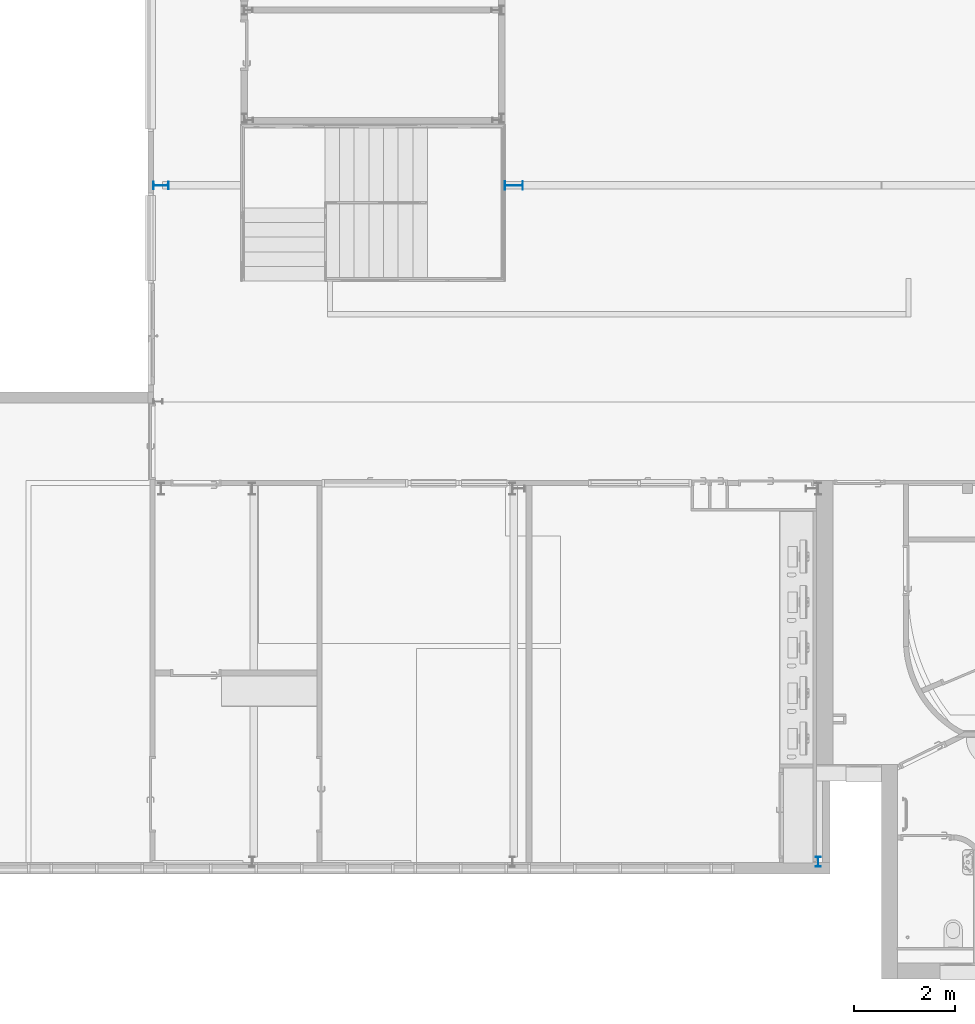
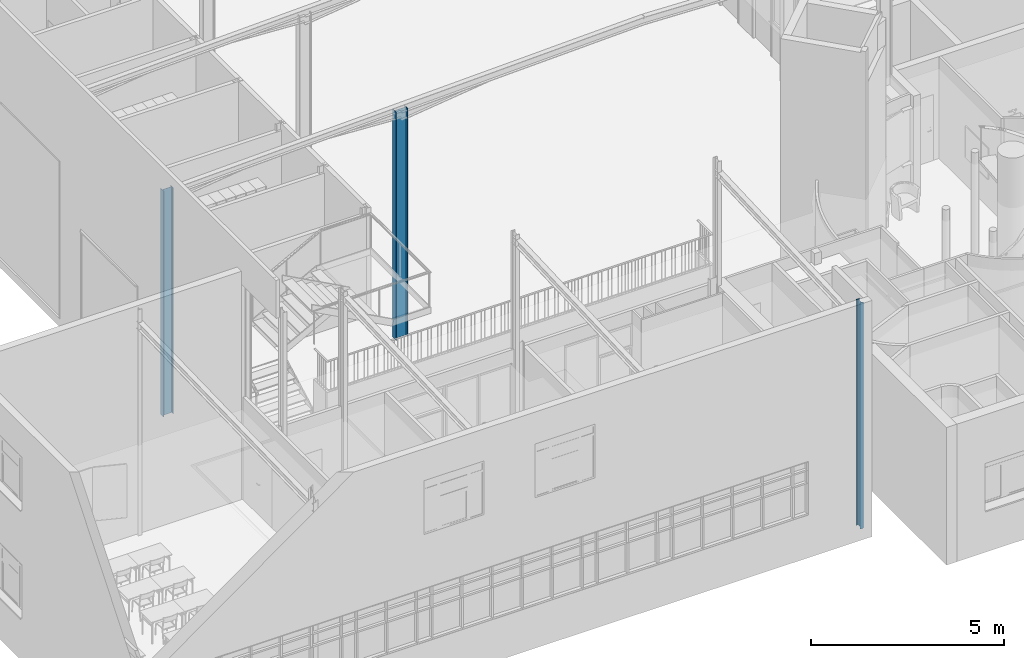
# One storey, part 2 of 137: 4 columns.
"""IFC2X3 building model written with IfcOpenShell, lengths in centimetres."""

from ifc_helpers import new_model, entity, si_unit, converted_unit, derived_unit, direction, frame, frame_2d, origin, place, context, subcontext, project, spatial, polyline, circle_curve, parameter, trimmed, segment, composite_curve, outline, extrude, source, transform, mapped, material, type_object, type_shapes, element, save


model = new_model("IFC2X3")

# Units and contexts
model_context = context("Model", 3, precision=0.001, world=origin(), true_north=direction((6.12303176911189e-17, 1.0)))
body_context = subcontext(model_context, "Body", "Model", "MODEL_VIEW")
ifc_project = project(units=[si_unit("LENGTHUNIT", "METRE", prefix="CENTI"), si_unit("AREAUNIT", "SQUARE_METRE"), si_unit("VOLUMEUNIT", "CUBIC_METRE"), converted_unit("PLANEANGLEUNIT", "DEGREE", entity("IfcRatioMeasure", 0.0174532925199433), si_unit("PLANEANGLEUNIT", "RADIAN"), dimensions=[0, 0, 0, 0, 0, 0, 0]), si_unit("MASSUNIT", "GRAM", prefix="KILO"), si_unit("TIMEUNIT", "SECOND"), si_unit("FREQUENCYUNIT", "HERTZ"), si_unit("THERMODYNAMICTEMPERATUREUNIT", "DEGREE_CELSIUS"), derived_unit("THERMALTRANSMITTANCEUNIT", [(si_unit("MASSUNIT", "GRAM", prefix="KILO"), 1), (si_unit("THERMODYNAMICTEMPERATUREUNIT", "KELVIN"), -1), (si_unit("TIMEUNIT", "SECOND"), -3)]), derived_unit("VOLUMETRICFLOWRATEUNIT", [(si_unit("LENGTHUNIT", "METRE"), 3), (si_unit("TIMEUNIT", "SECOND"), -1)]), si_unit("ELECTRICCURRENTUNIT", "AMPERE"), si_unit("ELECTRICVOLTAGEUNIT", "VOLT"), si_unit("POWERUNIT", "WATT"), si_unit("FORCEUNIT", "NEWTON", prefix="KILO"), si_unit("ILLUMINANCEUNIT", "LUX"), si_unit("LUMINOUSFLUXUNIT", "LUMEN"), si_unit("LUMINOUSINTENSITYUNIT", "CANDELA"), derived_unit("USERDEFINED", [(si_unit("MASSUNIT", "GRAM", prefix="KILO"), -1), (si_unit("LENGTHUNIT", "METRE"), -2), (si_unit("TIMEUNIT", "SECOND"), 3), (si_unit("LUMINOUSFLUXUNIT", "LUMEN"), 1)]), derived_unit("LINEARVELOCITYUNIT", [(si_unit("LENGTHUNIT", "METRE"), 1), (si_unit("TIMEUNIT", "SECOND"), -1)]), si_unit("PRESSUREUNIT", "PASCAL"), derived_unit("USERDEFINED", [(si_unit("LENGTHUNIT", "METRE"), -2), (si_unit("MASSUNIT", "GRAM", prefix="KILO"), 1), (si_unit("TIMEUNIT", "SECOND"), -2)])], contexts=[model_context])

# Site, building, storey
site_placement = place(None, frame((8.62739174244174, -249.285249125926, 0.0)))
site = spatial("IfcSite", under=ifc_project, at=site_placement, Name="Default", CompositionType="ELEMENT")
building_placement = place(site_placement, origin())
building = spatial("IfcBuilding", under=site, at=building_placement, CompositionType="ELEMENT")
storey_placement = place(building_placement, origin())
storey = spatial("IfcBuildingStorey", under=building, at=storey_placement, Name="RDC", CompositionType="ELEMENT", Elevation=-8.82465566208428e-11)

# Columns
ifc_material = material(Name="Acier, 45-345")
column_type_1 = type_object("IfcColumnType", Name="IPE200", PredefinedType="COLUMN", material=ifc_material)
shared_shape_1 = source(origin(), body_context, "Body", "SweptSolid", [
    extrude(outline(composite_curve([segment(polyline([(9.1, -5.0), (10.0, -5.0)]), True, "CONTINUOUS"), segment(polyline([(10.0, -5.0), (10.0, 5.0)]), True, "CONTINUOUS"), segment(polyline([(10.0, 5.0), (9.1, 5.0)]), True, "CONTINUOUS"), segment(polyline([(9.1, 5.0), (9.1, 1.8)]), True, "CONTINUOUS"), segment(trimmed(circle_curve(frame_2d((7.6, 1.8), x_axis=(1.0, 0.0)), 1.5), [parameter(270.0)], [parameter(0.0)], True, "PARAMETER"), False, "CONTINUOUS"), segment(polyline([(7.60000000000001, 0.3), (-7.6, 0.3)]), True, "CONTINUOUS"), segment(trimmed(circle_curve(frame_2d((-7.6, 1.8), x_axis=(0.0, -1.0)), 1.5), [parameter(270.0)], [parameter(0.0)], True, "PARAMETER"), False, "CONTINUOUS"), segment(polyline([(-9.1, 1.8), (-9.1, 5.0)]), True, "CONTINUOUS"), segment(polyline([(-9.1, 5.0), (-10.0, 5.0)]), True, "CONTINUOUS"), segment(polyline([(-10.0, 5.0), (-10.0, -5.0)]), True, "CONTINUOUS"), segment(polyline([(-10.0, -5.0), (-9.1, -5.0)]), True, "CONTINUOUS"), segment(polyline([(-9.1, -5.0), (-9.1, -1.8)]), True, "CONTINUOUS"), segment(trimmed(circle_curve(frame_2d((-7.6, -1.8), x_axis=(-1.0, 0.0)), 1.5), [parameter(270.0)], [parameter(0.0)], True, "PARAMETER"), False, "CONTINUOUS"), segment(polyline([(-7.6, -0.3), (7.6, -0.3)]), True, "CONTINUOUS"), segment(trimmed(circle_curve(frame_2d((7.6, -1.8), x_axis=(0.0, 1.0)), 1.5), [parameter(270.0)], [parameter(0.0)], True, "PARAMETER"), False, "CONTINUOUS"), segment(polyline([(9.1, -1.8), (9.1, -5.0)]), True, "CONTINUOUS")], self_intersect=False)), frame((0.0, 0.0, 0.0), z_axis=(0.0, 0.0, 1.0), x_axis=(0.0, -1.0, 0.0)), (0.0, 0.0, 1.0), 715.0),
])
type_shapes(column_type_1, [shared_shape_1])
column_1_placement = place(storey_placement, frame((2165.90000000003, 23.9802080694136, 0.0)))
element("IfcColumn", 1, at=column_1_placement, inside=storey, type_object=column_type_1, material=ifc_material, Name="IPE-200-100:IPE200", ObjectType="IPE200", context=body_context, shape_type="MappedRepresentation", body=[
    mapped(shared_shape_1, transform((0.0, 0.0, 0.0), scale=1.0)),
])
column_type_2 = type_object("IfcColumnType", Name="IPE360", PredefinedType="COLUMN", material=ifc_material)
shared_shape_2 = source(origin(), body_context, "Body", "SweptSolid", [
    extrude(outline(composite_curve([segment(polyline([(17.1, -8.5), (18.0, -8.5)]), True, "CONTINUOUS"), segment(polyline([(18.0, -8.5), (18.0, 8.5)]), True, "CONTINUOUS"), segment(polyline([(18.0, 8.5), (17.1, 8.5)]), True, "CONTINUOUS"), segment(polyline([(17.1, 8.5), (17.1, 1.79999999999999)]), True, "CONTINUOUS"), segment(trimmed(circle_curve(frame_2d((15.6, 1.80000000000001), x_axis=(1.0, 0.0)), 1.50000000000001), [parameter(270.000000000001)], [parameter(0.0)], True, "PARAMETER"), False, "CONTINUOUS"), segment(polyline([(15.6, 0.3), (-15.6, 0.3)]), True, "CONTINUOUS"), segment(trimmed(circle_curve(frame_2d((-15.6, 1.8), x_axis=(0.0, -1.0)), 1.5), [parameter(270.0)], [parameter(0.0)], True, "PARAMETER"), False, "CONTINUOUS"), segment(polyline([(-17.1, 1.8), (-17.1, 8.5)]), True, "CONTINUOUS"), segment(polyline([(-17.1, 8.5), (-18.0, 8.5)]), True, "CONTINUOUS"), segment(polyline([(-18.0, 8.5), (-18.0, -8.5)]), True, "CONTINUOUS"), segment(polyline([(-18.0, -8.5), (-17.1, -8.5)]), True, "CONTINUOUS"), segment(polyline([(-17.1, -8.5), (-17.1, -1.8)]), True, "CONTINUOUS"), segment(trimmed(circle_curve(frame_2d((-15.6, -1.8), x_axis=(-1.0, 0.0)), 1.5), [parameter(269.999999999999)], [parameter(0.0)], True, "PARAMETER"), False, "CONTINUOUS"), segment(polyline([(-15.6, -0.299999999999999), (15.6, -0.299999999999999)]), True, "CONTINUOUS"), segment(trimmed(circle_curve(frame_2d((15.6, -1.79999999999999), x_axis=(0.0, 1.0)), 1.49999999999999), [parameter(269.999999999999)], [parameter(0.0)], True, "PARAMETER"), False, "CONTINUOUS"), segment(polyline([(17.1, -1.8), (17.1, -8.5)]), True, "CONTINUOUS")], self_intersect=False)), frame((0.0, 0.0, 0.0), z_axis=(0.0, 0.0, 1.0), x_axis=(0.0, -1.0, 0.0)), (0.0, 0.0, 1.0), 722.0),
])
type_shapes(column_type_2, [shared_shape_2])
column_2_placement = place(storey_placement, frame((1563.90482780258, 1361.98020806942, 0.0), z_axis=(0.0, 0.0, 1.0), x_axis=(0.0, -1.0, 0.0)))
element("IfcColumn", 2, at=column_2_placement, inside=storey, type_object=column_type_2, material=ifc_material, Name="IPE-360-170:IPE360", ObjectType="IPE360", context=body_context, shape_type="MappedRepresentation", body=[
    mapped(shared_shape_2, transform((0.0, 0.0, 0.0), scale=1.0)),
])
column_type_3 = type_object("IfcColumnType", Name="IPE 300", PredefinedType="COLUMN", material=ifc_material)
shared_shape_3 = source(origin(), body_context, "Body", "SweptSolid", [
    extrude(outline(composite_curve([segment(polyline([(14.1, -7.5), (15.0, -7.5)]), True, "CONTINUOUS"), segment(polyline([(15.0, -7.5), (15.0, 7.5)]), True, "CONTINUOUS"), segment(polyline([(15.0, 7.5), (14.1, 7.5)]), True, "CONTINUOUS"), segment(polyline([(14.1, 7.5), (14.1, 1.8)]), True, "CONTINUOUS"), segment(trimmed(circle_curve(frame_2d((12.6, 1.8), x_axis=(1.0, 0.0)), 1.5), [parameter(270.0)], [parameter(0.0)], True, "PARAMETER"), False, "CONTINUOUS"), segment(polyline([(12.6, 0.300000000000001), (-12.6, 0.300000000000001)]), True, "CONTINUOUS"), segment(trimmed(circle_curve(frame_2d((-12.6, 1.8), x_axis=(0.0, -1.0)), 1.5), [parameter(270.0)], [parameter(0.0)], True, "PARAMETER"), False, "CONTINUOUS"), segment(polyline([(-14.1, 1.8), (-14.1, 7.5)]), True, "CONTINUOUS"), segment(polyline([(-14.1, 7.5), (-15.0, 7.5)]), True, "CONTINUOUS"), segment(polyline([(-15.0, 7.5), (-15.0, -7.5)]), True, "CONTINUOUS"), segment(polyline([(-15.0, -7.5), (-14.1, -7.5)]), True, "CONTINUOUS"), segment(polyline([(-14.1, -7.5), (-14.1, -1.8)]), True, "CONTINUOUS"), segment(trimmed(circle_curve(frame_2d((-12.6, -1.8), x_axis=(-1.0, 0.0)), 1.5), [parameter(269.999999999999)], [parameter(0.0)], True, "PARAMETER"), False, "CONTINUOUS"), segment(polyline([(-12.6, -0.3), (12.6, -0.3)]), True, "CONTINUOUS"), segment(trimmed(circle_curve(frame_2d((12.6, -1.8), x_axis=(0.0, 1.0)), 1.5), [parameter(270.0)], [parameter(0.0)], True, "PARAMETER"), False, "CONTINUOUS"), segment(polyline([(14.1, -1.8), (14.1, -7.5)]), True, "CONTINUOUS")], self_intersect=False)), frame((0.0, 0.0, 0.0), z_axis=(0.0, 0.0, 1.0), x_axis=(0.0, -1.0, 0.0)), (0.0, 0.0, 1.0), 714.699999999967),
])
type_shapes(column_type_3, [shared_shape_3])
column_3_placement = place(storey_placement, frame((865.904606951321, 1361.98020806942, 0.0), z_axis=(0.0, 0.0, 1.0), x_axis=(0.0, -1.0, 0.0)))
element("IfcColumn", 3, at=column_3_placement, inside=storey, type_object=column_type_3, material=ifc_material, Name="IPE-300-150:IPE 300", ObjectType="IPE 300", context=body_context, shape_type="MappedRepresentation", body=[
    mapped(shared_shape_3, transform((0.0, 0.0, 0.0), scale=1.0)),
])
column_type_4 = type_object("IfcColumnType", Name="HEA160", PredefinedType="COLUMN", material=ifc_material)
shared_shape_4 = source(origin(), body_context, "Body", "SweptSolid", [
    extrude(outline(composite_curve([segment(polyline([(9.1, -5.0), (10.0, -5.0)]), True, "CONTINUOUS"), segment(polyline([(10.0, -5.0), (10.0, 5.0)]), True, "CONTINUOUS"), segment(polyline([(10.0, 5.0), (9.1, 5.0)]), True, "CONTINUOUS"), segment(polyline([(9.1, 5.0), (9.1, 1.8)]), True, "CONTINUOUS"), segment(trimmed(circle_curve(frame_2d((7.6, 1.8), x_axis=(1.0, 0.0)), 1.5), [parameter(270.0)], [parameter(0.0)], True, "PARAMETER"), False, "CONTINUOUS"), segment(polyline([(7.60000000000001, 0.3), (-7.6, 0.3)]), True, "CONTINUOUS"), segment(trimmed(circle_curve(frame_2d((-7.6, 1.8), x_axis=(0.0, -1.0)), 1.5), [parameter(270.0)], [parameter(0.0)], True, "PARAMETER"), False, "CONTINUOUS"), segment(polyline([(-9.1, 1.8), (-9.1, 5.0)]), True, "CONTINUOUS"), segment(polyline([(-9.1, 5.0), (-10.0, 5.0)]), True, "CONTINUOUS"), segment(polyline([(-10.0, 5.0), (-10.0, -5.0)]), True, "CONTINUOUS"), segment(polyline([(-10.0, -5.0), (-9.1, -5.0)]), True, "CONTINUOUS"), segment(polyline([(-9.1, -5.0), (-9.1, -1.8)]), True, "CONTINUOUS"), segment(trimmed(circle_curve(frame_2d((-7.6, -1.8), x_axis=(-1.0, 0.0)), 1.5), [parameter(270.0)], [parameter(0.0)], True, "PARAMETER"), False, "CONTINUOUS"), segment(polyline([(-7.6, -0.3), (7.6, -0.3)]), True, "CONTINUOUS"), segment(trimmed(circle_curve(frame_2d((7.6, -1.8), x_axis=(0.0, 1.0)), 1.5), [parameter(270.0)], [parameter(0.0)], True, "PARAMETER"), False, "CONTINUOUS"), segment(polyline([(9.1, -1.8), (9.1, -5.0)]), True, "CONTINUOUS")], self_intersect=False)), frame((0.0, 0.0, 0.0), z_axis=(0.0, 0.0, 1.0), x_axis=(0.0, -1.0, 0.0)), (0.0, 0.0, 1.0), 715.0),
])
type_shapes(column_type_4, [shared_shape_4])
column_4_placement = place(storey_placement, frame((2165.90000000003, 23.9802080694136, 0.0)))
element("IfcColumn", 4, at=column_4_placement, inside=storey, type_object=column_type_4, material=ifc_material, Name="IPE-200-100:HEA160", ObjectType="HEA160", context=body_context, shape_type="MappedRepresentation", body=[
    mapped(shared_shape_4, transform((0.0, 0.0, 0.0), scale=1.0)),
])

save(model, "model.ifc")
